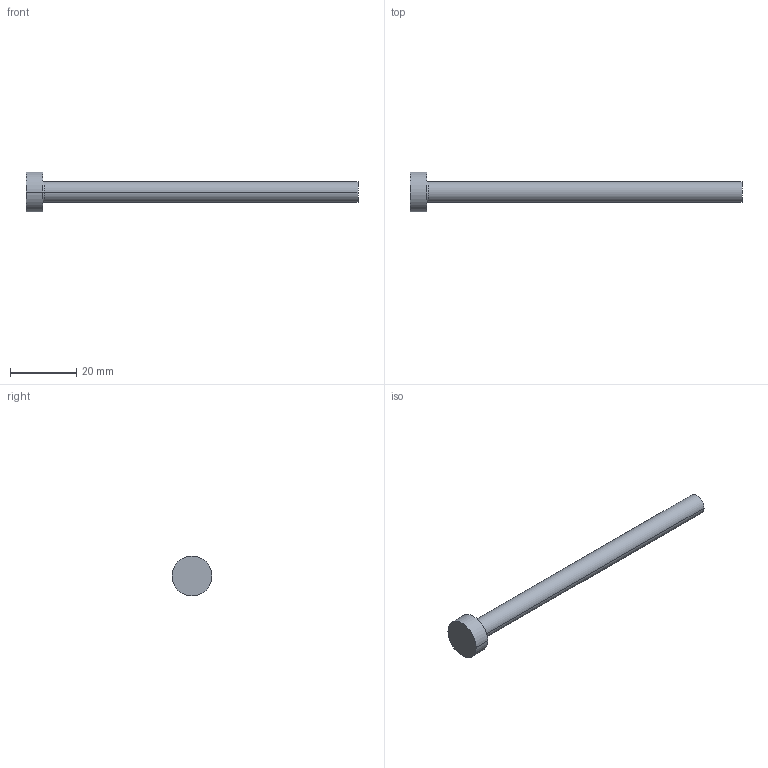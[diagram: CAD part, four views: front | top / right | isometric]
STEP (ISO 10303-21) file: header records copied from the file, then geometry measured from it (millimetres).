
FILE_DESCRIPTION (( 'STEP AP214' ), '1' );
FILE_NAME ('A-6,2x100.STEP', '2020-05-29T15:36:24', ( 'August' ), ( '' ), 'SwSTEP 2.0', 'SolidWorks 2018', '' );
FILE_SCHEMA (( 'AUTOMOTIVE_DESIGN' ));
Length unit declared in the file: millimetre
Products named in the file (1): A-6,2x100
Bounding box: 100 x 12 x 12 mm (x, y, z)
Volume: 3434.7 mm3; surface area: 2261 mm2
Topology: 1 solids, 1 shells, 9 faces, 16 edges, 10 vertices
Faces by surface type: cylinder 4, plane 3, torus 2
Entity records: 260 total; most frequent: DIRECTION 48, CARTESIAN_POINT 36, ORIENTED_EDGE 32, AXIS2_PLACEMENT_3D 22, EDGE_CURVE 16, CIRCLE 12, EDGE_LOOP 10, VERTEX_POINT 10
